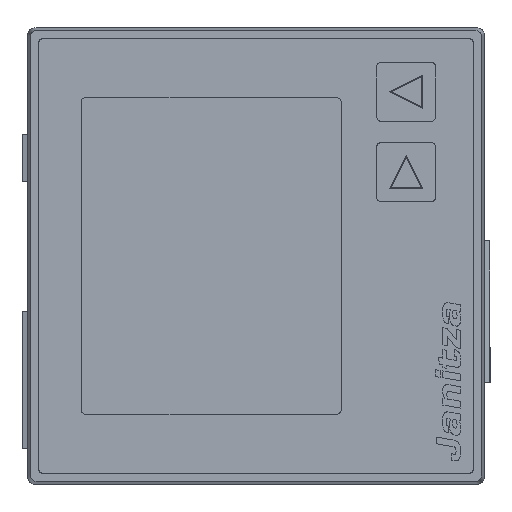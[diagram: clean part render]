
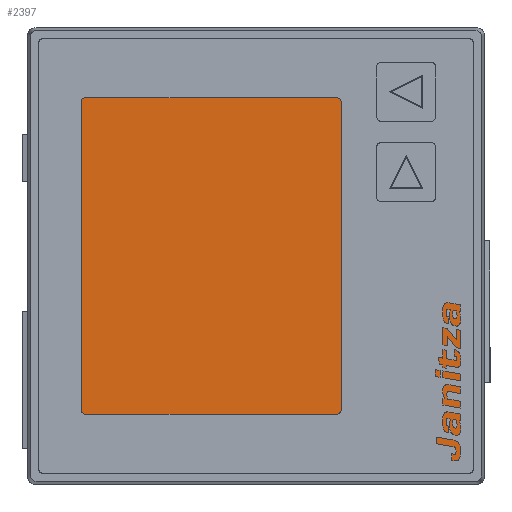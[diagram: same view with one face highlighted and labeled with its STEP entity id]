
A CAD part, top view. The second image highlights one B-rep face of the part: STEP entity #2397.
In plain terms, the highlighted planar face has unit normal (0, 0, 1).
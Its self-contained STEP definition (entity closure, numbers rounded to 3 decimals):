
#2131=CARTESIAN_POINT('',(46.,-45.,49.4));
#2132=VERTEX_POINT('',#2131);
#2133=CARTESIAN_POINT('',(46.,45.,49.4));
#2134=VERTEX_POINT('',#2133);
#2135=CARTESIAN_POINT('',(46.,-45.,49.4));
#2136=DIRECTION('',(0.0,1.0,0.0));
#2137=VECTOR('',#2136,90.);
#2138=LINE('',#2135,#2137);
#2139=EDGE_CURVE('',#2132,#2134,#2138,.T.);
#2171=CARTESIAN_POINT('',(45.,46.,49.4));
#2172=VERTEX_POINT('',#2171);
#2173=CARTESIAN_POINT('',(45.,45.,49.4));
#2174=DIRECTION('',(0.0,0.0,1.0));
#2175=DIRECTION('',(1.0,0.0,0.0));
#2176=AXIS2_PLACEMENT_3D('',#2173,#2174,#2175);
#2177=CIRCLE('',#2176,1.);
#2178=EDGE_CURVE('',#2134,#2172,#2177,.T.);
#2204=CARTESIAN_POINT('',(-45.,46.0,49.4));
#2205=VERTEX_POINT('',#2204);
#2206=CARTESIAN_POINT('',(45.,46.,49.4));
#2207=DIRECTION('',(-1.0,0.0,0.0));
#2208=VECTOR('',#2207,90.);
#2209=LINE('',#2206,#2208);
#2210=EDGE_CURVE('',#2172,#2205,#2209,.T.);
#2235=CARTESIAN_POINT('',(-46.,45.,49.4));
#2236=VERTEX_POINT('',#2235);
#2237=CARTESIAN_POINT('',(-45.,45.0,49.4));
#2238=DIRECTION('',(0.0,0.0,1.0));
#2239=DIRECTION('',(0.0,1.0,0.0));
#2240=AXIS2_PLACEMENT_3D('',#2237,#2238,#2239);
#2241=CIRCLE('',#2240,1.);
#2242=EDGE_CURVE('',#2205,#2236,#2241,.T.);
#2268=CARTESIAN_POINT('',(-46.,-45.,49.4));
#2269=VERTEX_POINT('',#2268);
#2270=CARTESIAN_POINT('',(-46.,45.,49.4));
#2271=DIRECTION('',(0.0,-1.0,0.0));
#2272=VECTOR('',#2271,90.);
#2273=LINE('',#2270,#2272);
#2274=EDGE_CURVE('',#2236,#2269,#2273,.T.);
#2299=CARTESIAN_POINT('',(-45.,-46.,49.4));
#2300=VERTEX_POINT('',#2299);
#2301=CARTESIAN_POINT('',(-45.,-45.,49.4));
#2302=DIRECTION('',(0.0,0.0,1.0));
#2303=DIRECTION('',(-1.0,0.0,0.0));
#2304=AXIS2_PLACEMENT_3D('',#2301,#2302,#2303);
#2305=CIRCLE('',#2304,1.);
#2306=EDGE_CURVE('',#2269,#2300,#2305,.T.);
#2332=CARTESIAN_POINT('',(45.,-46.,49.4));
#2333=VERTEX_POINT('',#2332);
#2334=CARTESIAN_POINT('',(-45.,-46.,49.4));
#2335=DIRECTION('',(1.0,0.0,0.0));
#2336=VECTOR('',#2335,90.);
#2337=LINE('',#2334,#2336);
#2338=EDGE_CURVE('',#2300,#2333,#2337,.T.);
#2363=CARTESIAN_POINT('',(45.,-45.,49.4));
#2364=DIRECTION('',(0.0,0.0,1.0));
#2365=DIRECTION('',(0.0,-1.0,0.0));
#2366=AXIS2_PLACEMENT_3D('',#2363,#2364,#2365);
#2367=CIRCLE('',#2366,1.0);
#2368=EDGE_CURVE('',#2333,#2132,#2367,.T.);
#2382=CARTESIAN_POINT('',(0.,0.,49.4));
#2383=DIRECTION('',(0.0,0.0,1.0));
#2384=DIRECTION('',(1.0,0.0,0.0));
#2385=AXIS2_PLACEMENT_3D('',#2382,#2383,#2384);
#2386=PLANE('',#2385);
#2387=ORIENTED_EDGE('',*,*,#2139,.T.);
#2388=ORIENTED_EDGE('',*,*,#2178,.T.);
#2389=ORIENTED_EDGE('',*,*,#2210,.T.);
#2390=ORIENTED_EDGE('',*,*,#2242,.T.);
#2391=ORIENTED_EDGE('',*,*,#2274,.T.);
#2392=ORIENTED_EDGE('',*,*,#2306,.T.);
#2393=ORIENTED_EDGE('',*,*,#2338,.T.);
#2394=ORIENTED_EDGE('',*,*,#2368,.T.);
#2395=EDGE_LOOP('',(#2387,#2388,#2389,#2390,#2391,#2392,#2393,#2394));
#2396=FACE_OUTER_BOUND('',#2395,.T.);
#2397=ADVANCED_FACE('',(#2396),#2386,.T.);
